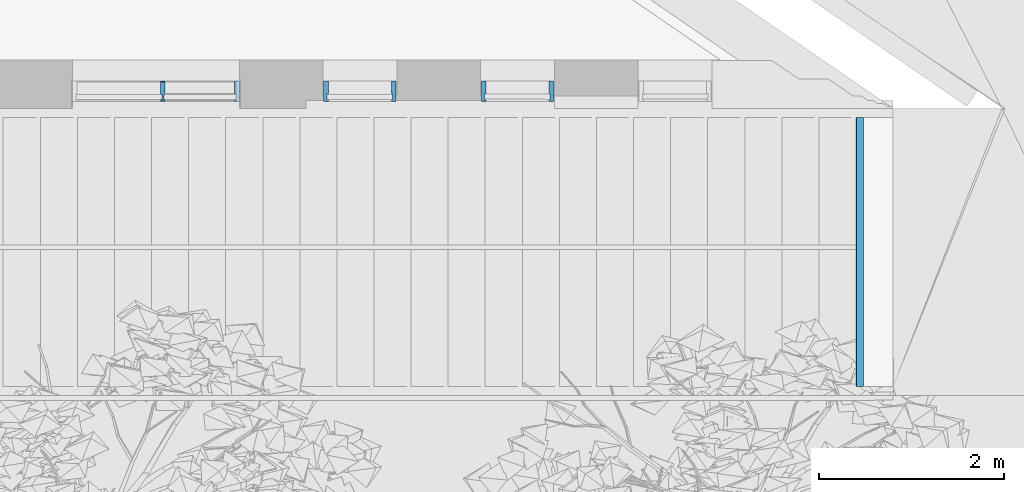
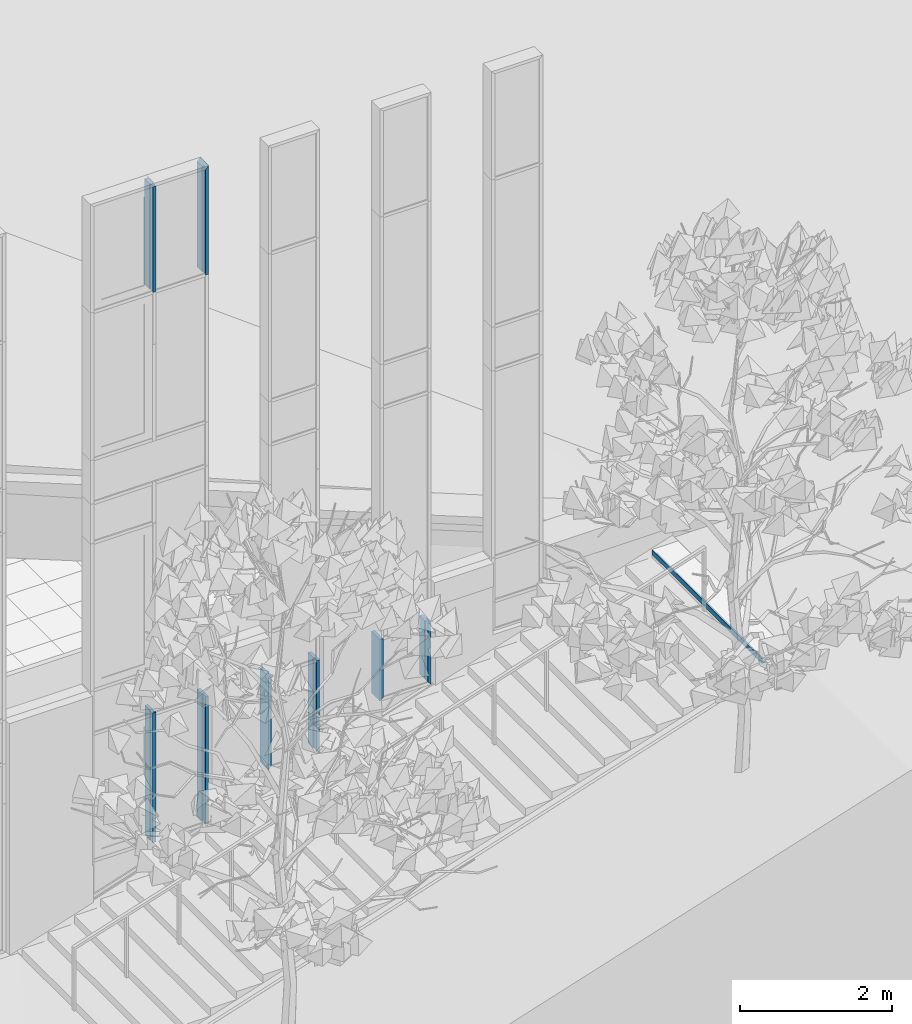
# One storey, part 81 of 246: 8 members, 1 beam, 3 elements without a shape of their own.
"""IFC2X3 building model written with IfcOpenShell, lengths in millimetres."""

from ifc_helpers import new_model, entity, si_unit, converted_unit, derived_unit, money_unit, direction, frame, origin_with_axes, place, context, subcontext, project, spatial, faceted_brep, material, type_object, element, aggregate, save


model = new_model("IFC2X3")

# Units and contexts
model_context = context("Model", 3, precision=0.01, world=origin_with_axes(), true_north=direction((0.0, 1.0)))
body_context = subcontext(model_context, "Body", "Model", "MODEL_VIEW")
ifc_project = project(units=[si_unit("LENGTHUNIT", "METRE", prefix="MILLI"), si_unit("AREAUNIT", "SQUARE_METRE"), si_unit("VOLUMEUNIT", "CUBIC_METRE"), converted_unit("PLANEANGLEUNIT", "DEGREE", entity("IfcPlaneAngleMeasure", 0.0174532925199), si_unit("PLANEANGLEUNIT", "RADIAN"), dimensions=[0, 0, 0, 0, 0, 0, 0]), si_unit("SOLIDANGLEUNIT", "STERADIAN"), money_unit("EUR"), converted_unit("TIMEUNIT", "Year", entity("IfcTimeMeasure", 31556926.0), si_unit("TIMEUNIT", "SECOND"), dimensions=[0, 0, 1, 0, 0, 0, 0]), si_unit("MASSUNIT", "GRAM", prefix="KILO"), si_unit("THERMODYNAMICTEMPERATUREUNIT", "DEGREE_CELSIUS"), si_unit("LUMINOUSINTENSITYUNIT", "LUMEN"), si_unit("ENERGYUNIT", "JOULE", prefix="MEGA"), derived_unit("THERMALCONDUCTANCEUNIT", [(si_unit("POWERUNIT", "WATT"), 1), (si_unit("LENGTHUNIT", "METRE"), -1), (si_unit("THERMODYNAMICTEMPERATUREUNIT", "KELVIN"), -1)]), derived_unit("SPECIFICHEATCAPACITYUNIT", [(si_unit("ENERGYUNIT", "JOULE"), 1), (si_unit("MASSUNIT", "GRAM", prefix="KILO"), -1), (si_unit("THERMODYNAMICTEMPERATUREUNIT", "KELVIN"), -1)]), derived_unit("MASSDENSITYUNIT", [(si_unit("MASSUNIT", "GRAM", prefix="KILO"), 1), (si_unit("VOLUMEUNIT", "CUBIC_METRE"), -1)])], contexts=[model_context])

# Site, building, storey
site_placement = place(None, origin_with_axes())
site = spatial("IfcSite", under=ifc_project, at=site_placement, Name="L.Koidula tn 11b", CompositionType="ELEMENT")
building_placement = place(site_placement, origin_with_axes())
building = spatial("IfcBuilding", under=site, at=building_placement, Name="Rakvere Riigigümnaasium", CompositionType="ELEMENT")
storey_placement = place(building_placement, origin_with_axes())
storey = spatial("IfcBuildingStorey", under=building, at=storey_placement, Name="1.korrus 0,00", CompositionType="ELEMENT", Elevation=0.0)

# Beam
ifc_material_1 = material(Name="teras_must")
beam_type = type_object("IfcBeamType", Name="Nurgik 80 x 80", PredefinedType="BEAM")
beam_placement = place(storey_placement, frame((104168.829221, 1986.45553887, 3116.42857143), z_axis=(0.0, 0.0, 1.0), x_axis=(1.0, 0.0, 0.0)))
element("IfcBeam", 1, at=beam_placement, inside=storey, type_object=beam_type, material=ifc_material_1, Name="TALA", ObjectType="BEAM", context=body_context, shape_type="Brep", body=[
    faceted_brep([(-11.4285714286, 0.0, 63.5714285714), (-11.4285714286, 2899.60289544, 63.5714285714), (-16.4285714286, 2899.60289544, 63.5714285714), (-16.4285714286, 0.0, 63.5714285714), (-11.4285714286, 0.0, -11.4285714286), (-11.4285714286, 2899.60289544, -11.4285714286), (63.5714285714, 2899.60289544, -11.4285714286), (63.5714285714, 2899.60289544, -16.4285714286), (-16.4285714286, 2899.60289544, -16.4285714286), (-16.4285714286, 0.0, -16.4285714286), (63.5714285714, 0.0, -16.4285714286), (63.5714285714, 0.0, -11.4285714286)], [[[0, 1, 2, 3]], [[4, 5, 1, 0]], [[2, 1, 5, 6, 7, 8]], [[3, 2, 8, 9]], [[4, 0, 3, 9, 10, 11]], [[11, 6, 5, 4]], [[10, 7, 6, 11]], [[9, 8, 7, 10]]]),
])

# Curtain wall, member
curtain_wall_type = type_object("IfcCurtainWallType", Name="Curtain Wall Type", PredefinedType="NOTDEFINED")
curtain_wall_1_placement = place(storey_placement, frame((96030.936158, 5111.45334637, 394.620798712), z_axis=(0.0, 0.0, 1.0), x_axis=(1.0, 0.0, 0.0)))
curtain_wall_1 = element("IfcCurtainWall", 2, at=curtain_wall_1_placement, inside=storey, type_object=curtain_wall_type, Name="KLF-05-2C")
ifc_material_2 = material(Name="Alumiiniumprofiil (RAL 7021)")
member_type_1 = type_object("IfcMemberType", Name="Mullion Frame 50 x 222", PredefinedType="MULLION")
member_1_placement = place(curtain_wall_1_placement, frame((644.063960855, 0.0, 9445.37919319), z_axis=(0.0, 0.0, 1.0), x_axis=(-1.0, 0.0, 0.0)))
member_1 = element("IfcMember", 3, at=member_1_placement, type_object=member_type_1, material=ifc_material_2, Name="KLF-05-9C-Profiilid", ObjectType="MULLION", context=body_context, shape_type="Brep", body=[
    faceted_brep([(-12.0, -32.5, 1699.62081597), (-25.0, -32.5, 1699.62081597), (-25.0, -169.0, 1699.62081597), (25.0, -169.0, 1699.62081597), (25.0, -32.5, 1699.62081597), (12.0, -32.5, 1699.62081597), (12.0, 32.5, 1699.62081597), (25.0, 32.5, 1699.62081597), (25.0, 53.0, 1699.62081597), (-25.0, 53.0, 1699.62081597), (-25.0, 32.5, 1699.62081597), (-12.0, 32.5, 1699.62081597), (-12.0, -32.5, 0.0), (-25.0, -32.5, 0.0), (-25.0, -169.0, 0.0), (25.0, -169.0, 0.0), (25.0, -32.5, 0.0), (12.0, -32.5, 0.0), (12.0, 32.5, 0.0), (25.0, 32.5, 0.0), (25.0, 53.0, 0.0), (-25.0, 53.0, 0.0), (-25.0, 32.5, 0.0), (-12.0, 32.5, 0.0)], [[[0, 1, 2, 3, 4, 5, 6, 7, 8, 9, 10, 11]], [[1, 0, 12, 13]], [[1, 13, 14, 2]], [[3, 2, 14, 15]], [[4, 3, 15, 16]], [[4, 16, 17, 5]], [[5, 17, 18, 6]], [[7, 6, 18, 19]], [[19, 20, 8, 7]], [[9, 8, 20, 21]], [[22, 10, 9, 21]], [[11, 10, 22, 23]], [[0, 11, 23, 12]], [[23, 22, 21, 20, 19, 18, 17, 16, 15, 14, 13, 12]]]),
])

# Curtain wall, members
curtain_wall_2_placement = place(storey_placement, frame((98799.9667993, 5111.45595337, 1534.99996364), z_axis=(0.0, 0.0, 1.0), x_axis=(1.0, 0.0, 0.0)))
curtain_wall_2 = element("IfcCurtainWall", 4, at=curtain_wall_2_placement, inside=storey, type_object=curtain_wall_type, Name="KLF-05-4A1")
member_type_2 = type_object("IfcMemberType", Name="Boundary Frame 50 x 222", PredefinedType="MULLION")
member_2_placement = place(curtain_wall_2_placement, frame((-389.999935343, -0.0026063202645, 1505.00002826), z_axis=(0.0, 0.0, -1.0), x_axis=(0.999999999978, 6.68287358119e-06, 0.0)))
member_2 = element("IfcMember", 5, at=member_2_placement, type_object=member_type_2, material=ifc_material_2, Name="KLF-05-2A-Profiilid", ObjectType="MULLION", context=body_context, shape_type="Brep", body=[
    faceted_brep([(37.0, -32.5, 1468.00002826), (37.0, 32.5, 1468.00002826), (50.0, 32.5, 1455.00002826), (50.0, 53.0, 1455.00002826), (0.0, 53.0, 1505.00002826), (0.0, -169.0, 1505.00002826), (50.0, -169.0, 1455.00002826), (50.0, -32.5, 1455.00002826), (37.0, -32.5, 0.0), (37.0, 32.5, 0.0), (50.0, 32.5, 0.0), (50.0, 53.0, 0.0), (0.0, 53.0, 0.0), (0.0, -169.0, 0.0), (50.0, -169.0, 0.0), (50.0, -32.5, 0.0)], [[[0, 1, 2, 3, 4, 5, 6, 7]], [[1, 0, 8, 9]], [[10, 2, 1, 9]], [[2, 10, 11, 3]], [[12, 4, 3, 11]], [[13, 5, 4, 12]], [[14, 6, 5, 13]], [[15, 7, 6, 14]], [[0, 7, 15, 8]], [[8, 15, 14, 13, 12, 11, 10, 9]]]),
])
member_3_placement = place(curtain_wall_2_placement, frame((389.999935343, 0.00260632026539, 0.0), z_axis=(0.0, 0.0, 1.0), x_axis=(-0.999999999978, -6.68287358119e-06, 0.0)))
member_3 = element("IfcMember", 6, at=member_3_placement, type_object=member_type_2, material=ifc_material_2, Name="KLF-05-4A-Profiilid", ObjectType="MULLION", context=body_context, shape_type="Brep", body=[
    faceted_brep([(37.0, -32.5, 1505.00002826), (37.0, 32.5, 1505.00002826), (50.0, 32.5, 1505.00002826), (50.0, 53.0, 1505.00002826), (0.0, 53.0, 1505.00002826), (0.0, -169.0, 1505.00002826), (50.0, -169.0, 1505.00002826), (50.0, -32.5, 1505.00002826), (37.0, -32.5, 37.0), (37.0, 32.5, 37.0), (50.0, 32.5, 50.0), (50.0, 53.0, 50.0), (0.0, 53.0, 0.0), (0.0, -169.0, 0.0), (50.0, -169.0, 50.0), (50.0, -32.5, 50.0)], [[[0, 1, 2, 3, 4, 5, 6, 7]], [[1, 0, 8, 9]], [[10, 2, 1, 9]], [[2, 10, 11, 3]], [[4, 3, 11, 12]], [[5, 4, 12, 13]], [[6, 5, 13, 14]], [[15, 7, 6, 14]], [[0, 7, 15, 8]], [[8, 15, 14, 13, 12, 11, 10, 9]]]),
])
aggregate(curtain_wall_2, [member_2, member_3])

curtain_wall_3_placement = place(storey_placement, frame((100499.941472, 5111.64286466, 2044.99997146), z_axis=(0.0, 0.0, 1.0), x_axis=(1.0, 0.0, 0.0)))
curtain_wall_3 = element("IfcCurtainWall", 7, at=curtain_wall_3_placement, inside=storey, type_object=curtain_wall_type, Name="KLF-05-4A2")
member_4_placement = place(curtain_wall_3_placement, frame((-389.999798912, 0.0554782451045, 995.0), z_axis=(0.0, 0.0, -1.0), x_axis=(0.999999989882, -0.000142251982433, 0.0)))
member_4 = element("IfcMember", 8, at=member_4_placement, type_object=member_type_2, material=ifc_material_2, Name="KLF-05-4A-Profiilid", ObjectType="MULLION", context=body_context, shape_type="Brep", body=[
    faceted_brep([(37.0, -32.5, 958.0), (37.0, 32.5, 958.0), (50.0, 32.5, 945.0), (50.0, 53.0, 945.0), (0.0, 53.0, 995.0), (0.0, -169.0, 995.0), (50.0, -169.0, 945.0), (50.0, -32.5, 945.0), (37.0, -32.5, 0.0), (37.0, 32.5, 0.0), (50.0, 32.5, 0.0), (50.0, 53.0, 0.0), (0.0, 53.0, 0.0), (0.0, -169.0, 0.0), (50.0, -169.0, 0.0), (50.0, -32.5, 0.0)], [[[0, 1, 2, 3, 4, 5, 6, 7]], [[1, 0, 8, 9]], [[10, 2, 1, 9]], [[2, 10, 11, 3]], [[12, 4, 3, 11]], [[13, 5, 4, 12]], [[14, 6, 5, 13]], [[15, 7, 6, 14]], [[0, 7, 15, 8]], [[8, 15, 14, 13, 12, 11, 10, 9]]]),
])
member_5_placement = place(curtain_wall_3_placement, frame((389.999845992, -0.0554782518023, 0.0), z_axis=(0.0, 0.0, 1.0), x_axis=(-0.999999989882, 0.000142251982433, 0.0)))
member_5 = element("IfcMember", 9, at=member_5_placement, type_object=member_type_2, material=ifc_material_2, Name="KLF-05-6A-Profiilid", ObjectType="MULLION", context=body_context, shape_type="Brep", body=[
    faceted_brep([(37.0, -32.5, 995.0), (37.0, 32.5, 995.0), (50.0, 32.5, 995.0), (50.0, 53.0, 995.0), (0.0, 53.0, 995.0), (0.0, -169.0, 995.0), (50.0, -169.0, 995.0), (50.0, -32.5, 995.0), (37.0, -32.5, 37.0), (37.0, 32.5, 37.0), (50.0, 32.5, 50.0), (50.0, 53.0, 50.0), (0.0, 53.0, 0.0), (0.0, -169.0, 0.0), (50.0, -169.0, 50.0), (50.0, -32.5, 50.0)], [[[0, 1, 2, 3, 4, 5, 6, 7]], [[1, 0, 8, 9]], [[10, 2, 1, 9]], [[2, 10, 11, 3]], [[4, 3, 11, 12]], [[5, 4, 12, 13]], [[6, 5, 13, 14]], [[15, 7, 6, 14]], [[0, 7, 15, 8]], [[8, 15, 14, 13, 12, 11, 10, 9]]]),
])
aggregate(curtain_wall_3, [member_4, member_5])

# Member
member_6_placement = place(curtain_wall_1_placement, frame((1469.06406197, 0.0, 605.379193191), z_axis=(0.0, 0.0, 1.0), x_axis=(-1.0, 0.0, 0.0)))
member_6 = element("IfcMember", 10, at=member_6_placement, type_object=member_type_2, material=ifc_material_2, Name="KLF-05-5C-Profiilid", ObjectType="MULLION", context=body_context, shape_type="Brep", body=[
    faceted_brep([(37.0, -32.5, 2040.0), (37.0, 32.5, 2040.0), (50.0, 32.5, 2040.0), (50.0, 53.0, 2040.0), (0.0, 53.0, 2040.0), (0.0, -169.0, 2040.0), (50.0, -169.0, 2040.0), (50.0, -32.5, 2040.0), (37.0, -32.5, -0.000148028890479), (37.0, 32.5, -0.000148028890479), (50.0, 32.5, -0.000148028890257), (50.0, 53.0, -0.000148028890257), (0.0, 53.0, -0.000148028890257), (0.0, -169.0, -0.000148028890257), (50.0, -169.0, -0.000148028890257), (50.0, -32.5, -0.000148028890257)], [[[0, 1, 2, 3, 4, 5, 6, 7]], [[1, 0, 8, 9]], [[10, 2, 1, 9]], [[2, 10, 11, 3]], [[12, 4, 3, 11]], [[13, 5, 4, 12]], [[14, 6, 5, 13]], [[15, 7, 6, 14]], [[0, 7, 15, 8]], [[8, 15, 14, 13, 12, 11, 10, 9]]]),
])

member_7_placement = place(curtain_wall_1_placement, frame((1469.06407413, 0.0, 9445.37919319), z_axis=(-1.4461863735e-07, 0.0, 1.0), x_axis=(-1.0, 0.0, -1.4461863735e-07)))
member_7 = element("IfcMember", 11, at=member_7_placement, type_object=member_type_2, material=ifc_material_2, Name="KLF-05-1C-Profiilid", ObjectType="MULLION", context=body_context, shape_type="Brep", body=[
    faceted_brep([(37.0, -32.5, 1712.62082132), (37.0, 32.5, 1712.62082132), (50.0, 32.5, 1699.6208232), (50.0, 53.0, 1699.6208232), (0.0, 53.0, 1749.62081597), (0.0, -169.0, 1749.62081597), (50.0, -169.0, 1699.6208232), (50.0, -32.5, 1699.6208232), (37.0, -32.5, -3.74344666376e-06), (37.0, 32.5, -3.74344666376e-06), (50.0, 32.5, -3.74344666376e-06), (50.0, 53.0, -3.74344666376e-06), (0.0, 53.0, -3.74344666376e-06), (0.0, -169.0, -3.74344666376e-06), (50.0, -169.0, -3.74344666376e-06), (50.0, -32.5, -3.74344666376e-06)], [[[0, 1, 2, 3, 4, 5, 6, 7]], [[1, 0, 8, 9]], [[10, 2, 1, 9]], [[2, 10, 11, 3]], [[12, 4, 3, 11]], [[13, 5, 4, 12]], [[14, 6, 5, 13]], [[15, 7, 6, 14]], [[0, 7, 15, 8]], [[8, 15, 14, 13, 12, 11, 10, 9]]]),
])

member_type_3 = type_object("IfcMemberType", Name="50 x 208", PredefinedType="MULLION")
member_8_placement = place(curtain_wall_1_placement, frame((644.063960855, 0.0, 605.379193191), z_axis=(0.0, 0.0, 1.0), x_axis=(-1.0, 0.0, 0.0)))
member_8 = element("IfcMember", 12, at=member_8_placement, type_object=member_type_3, material=ifc_material_2, Name="KLF-41", ObjectType="MULLION", context=body_context, shape_type="Brep", body=[
    faceted_brep([(-12.0, -27.0, 2065.0), (-25.0, -27.0, 2065.0), (-25.0, -160.0, 2065.0), (25.0, -160.0, 2065.0), (25.0, -27.0, 2065.0), (12.0, -27.0, 2065.0), (12.0, 27.0, 2065.0), (25.0, 27.0, 2065.0), (25.0, 48.0, 2065.0), (-25.0, 48.0, 2065.0), (-25.0, 27.0, 2065.0), (-12.0, 27.0, 2065.0), (-12.0, -27.0, -25.0), (-25.0, -27.0, -25.0), (-25.0, -160.0, -25.0), (25.0, -160.0, -25.0), (25.0, -27.0, -25.0), (12.0, -27.0, -25.0), (12.0, 27.0, -25.0), (25.0, 27.0, -25.0), (25.0, 48.0, -25.0), (-25.0, 48.0, -25.0), (-25.0, 27.0, -25.0), (-12.0, 27.0, -25.0)], [[[0, 1, 2, 3, 4, 5, 6, 7, 8, 9, 10, 11]], [[1, 0, 12, 13]], [[1, 13, 14, 2]], [[3, 2, 14, 15]], [[4, 3, 15, 16]], [[4, 16, 17, 5]], [[5, 17, 18, 6]], [[7, 6, 18, 19]], [[19, 20, 8, 7]], [[9, 8, 20, 21]], [[22, 10, 9, 21]], [[11, 10, 22, 23]], [[0, 11, 23, 12]], [[23, 22, 21, 20, 19, 18, 17, 16, 15, 14, 13, 12]]]),
])

aggregate(curtain_wall_1, [member_8, member_6, member_1, member_7])

save(model, "model.ifc")
